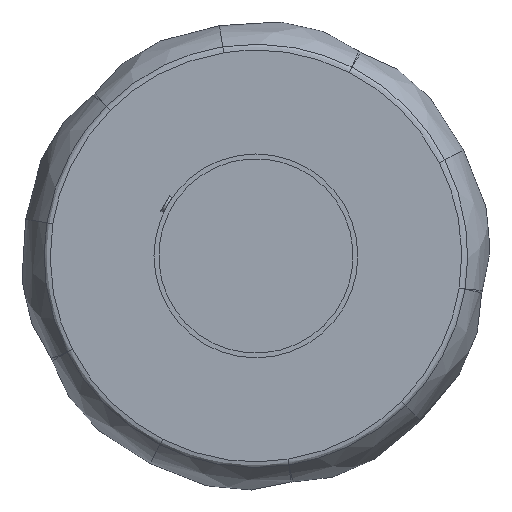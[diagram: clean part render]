
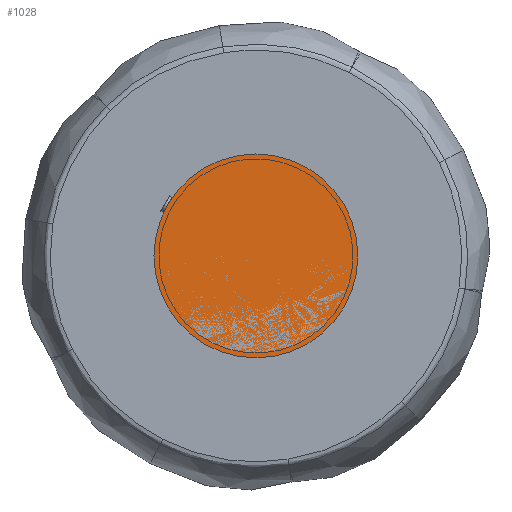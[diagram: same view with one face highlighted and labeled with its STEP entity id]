
A CAD part, front view. The second image highlights one B-rep face of the part: STEP entity #1028.
In plain terms, the highlighted planar face has unit normal (0, -1, 0).
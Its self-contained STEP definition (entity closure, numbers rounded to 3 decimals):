
#190=FACE_OUTER_BOUND('',#267,.T.);
#267=EDGE_LOOP('',(#635));
#345=CIRCLE('',#1137,75.);
#401=VERTEX_POINT('',#1449);
#489=EDGE_CURVE('',#401,#401,#345,.T.);
#635=ORIENTED_EDGE('',*,*,#489,.T.);
#927=PLANE('',#1136);
#1028=ADVANCED_FACE('',(#190),#927,.T.);
#1136=AXIS2_PLACEMENT_3D('',#1448,#1236,#1237);
#1137=AXIS2_PLACEMENT_3D('',#1450,#1238,#1239);
#1236=DIRECTION('center_axis',(0.,-1.,0.));
#1237=DIRECTION('ref_axis',(-0.5,0.,-0.866));
#1238=DIRECTION('center_axis',(0.,-1.,0.));
#1239=DIRECTION('ref_axis',(0.5,0.,0.866));
#1448=CARTESIAN_POINT('Origin',(0.,0.,
0.));
#1449=CARTESIAN_POINT('',(-37.5,0.,-64.952));
#1450=CARTESIAN_POINT('Origin',(0.,0.,
0.));
